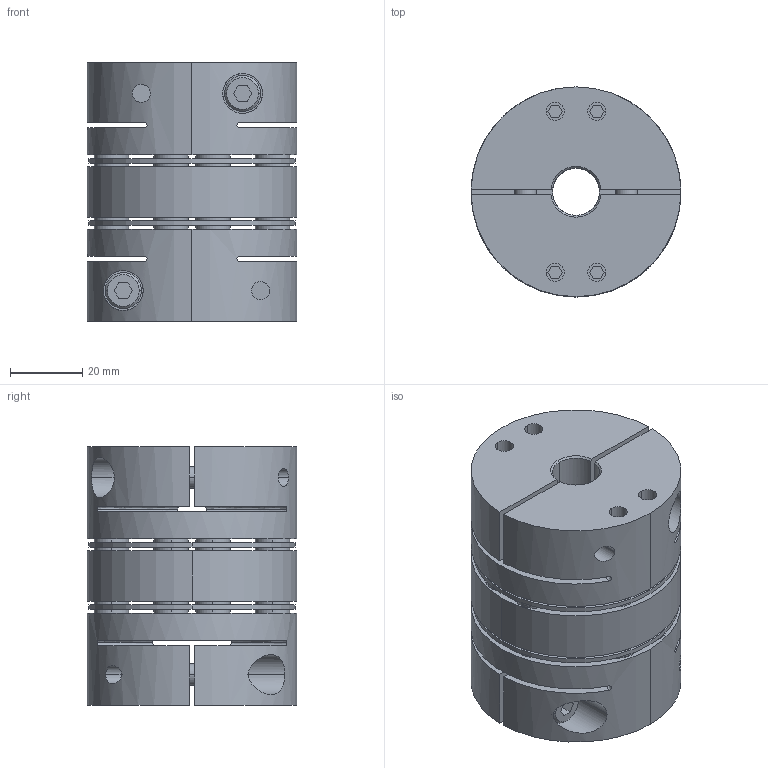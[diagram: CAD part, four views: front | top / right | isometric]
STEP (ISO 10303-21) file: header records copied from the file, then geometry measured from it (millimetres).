
FILE_DESCRIPTION((''),'2;1');
FILE_NAME('TAD-58C-13×25.stp','2022-11-13T22:14:42',(''),(''),'AutoCAD STEP 2000i','AutoCAD 2000i',', , ');
FILE_SCHEMA(('CONFIG_CONTROL_DESIGN'));
Length unit declared in the file: millimetre
Products named in the file (7): TAD-58C-12×22; 忣兜1; TA58C-22; CAP-M6×20; TA58C-12-2; TA58C-12; TAS-58C-ITA
Assembly tree (8 placements, depth 3):
  TAD-58C-12×22
    忣兜1
    TA58C-22
      CAP-M6×20
    TA58C-12-2
      CAP-M6×20
    TA58C-12
      CAP-M6×20
    TAS-58C-ITA
Bounding box: 58 x 58 x 71.5 mm (x, y, z)
Volume: 133977.1 mm3; surface area: 55457.9 mm2
Topology: 1 solids, 5 shells, 568 faces, 1369 edges, 937 vertices
Faces by surface type: plane 252, cylinder 228, cone 72, bspline 16
Entity records: 18635 total; most frequent: CARTESIAN_POINT 4794, DIRECTION 3008, ORIENTED_EDGE 2640, EDGE_CURVE 1320, AXIS2_PLACEMENT_3D 1142, VERTEX_POINT 860, EDGE_LOOP 724, VECTOR 724
